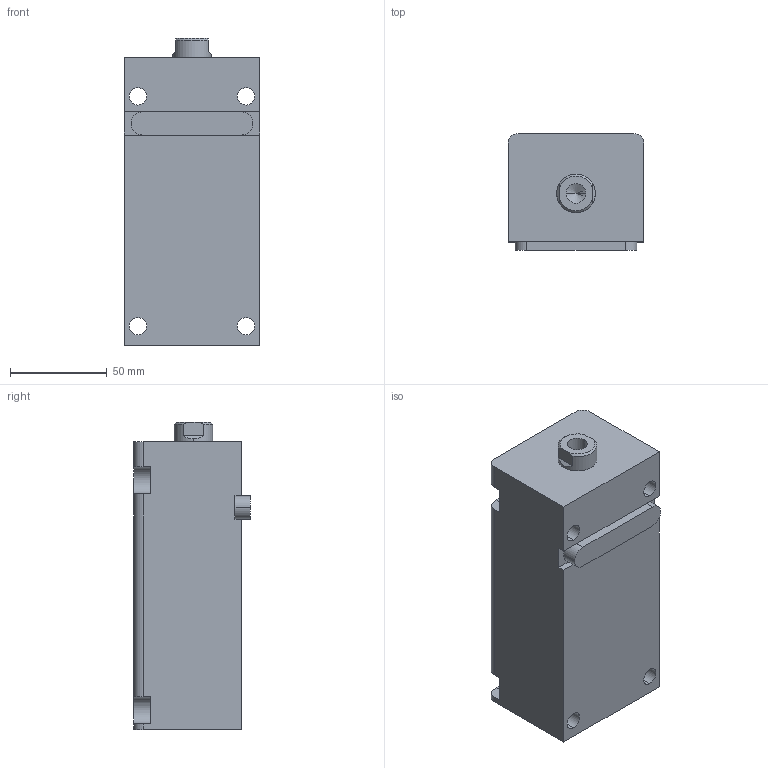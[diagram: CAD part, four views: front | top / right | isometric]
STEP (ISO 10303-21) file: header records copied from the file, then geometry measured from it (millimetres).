
FILE_DESCRIPTION (( 'STEP AP203' ), '1' );
FILE_NAME ('HTB-LA32-95N.STEP', '2019-10-09T06:32:49', ( '微软用户' ), ( '微软中国' ), 'SwSTEP 2.0', 'SolidWorks 2012', '' );
FILE_SCHEMA (( 'CONFIG_CONTROL_DESIGN' ));
Length unit declared in the file: millimetre
Products named in the file (4): HTB-LA32-95掛极; HTB-LA32-95N活塞杆; HTB-LA32-瑩; HTB-LA32-95N
Assembly tree (3 placements, depth 2):
  HTB-LA32-95N
    HTB-LA32-95掛极
    HTB-LA32-95N活塞杆
    HTB-LA32-瑩
Bounding box: 70 x 60.5 x 159 mm (x, y, z)
Volume: 520469.9 mm3; surface area: 80051.3 mm2
Topology: 3 solids, 3 shells, 88 faces, 217 edges, 141 vertices
Faces by surface type: plane 39, cylinder 35, cone 8, torus 6
Entity records: 3053 total; most frequent: DIRECTION 487, CARTESIAN_POINT 478, ORIENTED_EDGE 430, EDGE_CURVE 215, AXIS2_PLACEMENT_3D 186, VERTEX_POINT 141, LINE 115, VECTOR 115
